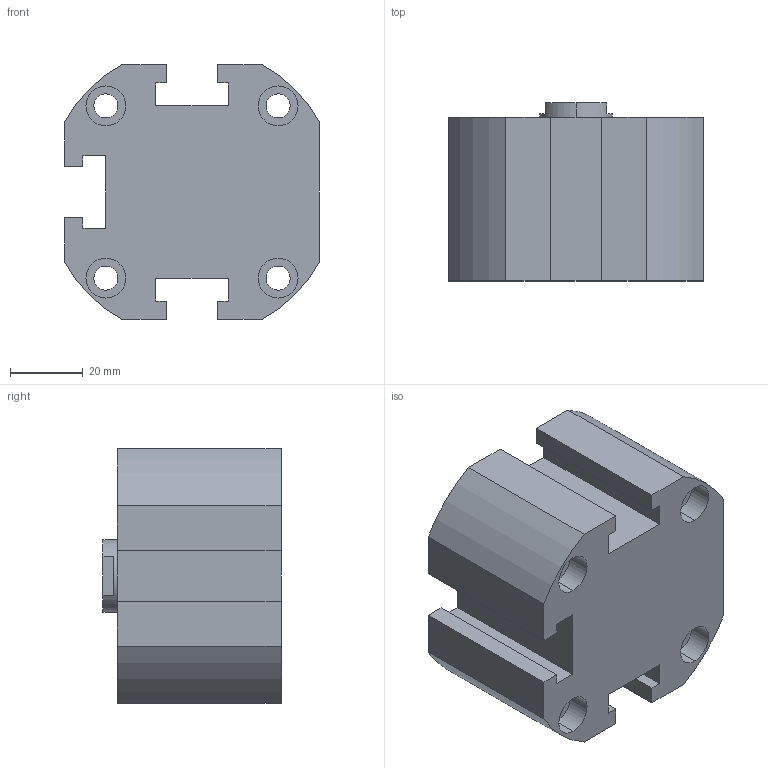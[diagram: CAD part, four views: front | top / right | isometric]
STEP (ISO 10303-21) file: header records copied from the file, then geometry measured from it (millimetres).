
FILE_DESCRIPTION (( 'STEP AP203' ), '1' );
FILE_NAME ('XC#1-50D-10.STEP', '2016-05-23T07:57:18', ( '' ), ( '' ), 'SwSTEP 2.0', 'SolidWorks 2014', '' );
FILE_SCHEMA (( 'CONFIG_CONTROL_DESIGN' ));
Length unit declared in the file: millimetre
Products named in the file (1): XC#1-50D-10
Bounding box: 70 x 49 x 70 mm (x, y, z)
Volume: 165537.5 mm3; surface area: 29136.2 mm2
Topology: 1 solids, 1 shells, 107 faces, 267 edges, 174 vertices
Faces by surface type: cylinder 52, plane 49, cone 6
Entity records: 3290 total; most frequent: DIRECTION 591, CARTESIAN_POINT 545, ORIENTED_EDGE 526, EDGE_CURVE 263, AXIS2_PLACEMENT_3D 220, VERTEX_POINT 174, LINE 151, VECTOR 151
